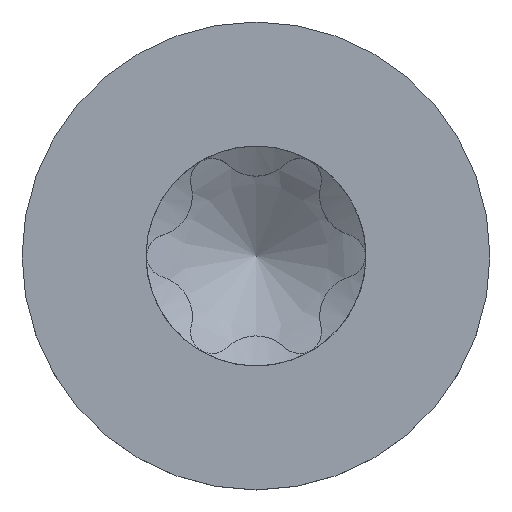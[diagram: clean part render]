
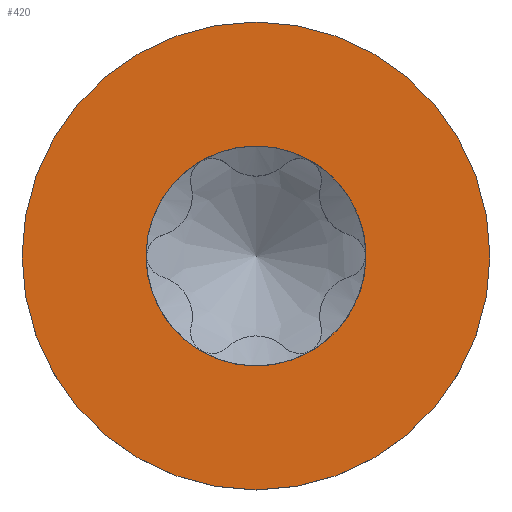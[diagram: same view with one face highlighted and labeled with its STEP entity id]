
A CAD part, top view. The second image highlights one B-rep face of the part: STEP entity #420.
In plain terms, the highlighted planar face has unit normal (0, 0, 1).
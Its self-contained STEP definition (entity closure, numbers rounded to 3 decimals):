
#377=PLANE('',#2076);
#384=FACE_BOUND('',#686,.T.);
#385=FACE_BOUND('',#687,.T.);
#420=ADVANCED_FACE('',(#384,#385),#377,.F.);
#686=EDGE_LOOP('',(#1058));
#687=EDGE_LOOP('',(#1059));
#1058=ORIENTED_EDGE('',*,*,#1818,.F.);
#1059=ORIENTED_EDGE('',*,*,#1819,.F.);
#1641=VERTEX_POINT('',#4886);
#1642=VERTEX_POINT('',#4888);
#1818=EDGE_CURVE('',#1641,#1641,#2056,.T.);
#1819=EDGE_CURVE('',#1642,#1642,#2057,.T.);
#2056=CIRCLE('',#2074,1.41);
#2057=CIRCLE('',#2075,3.);
#2074=AXIS2_PLACEMENT_3D('',#4885,#2124,#2125);
#2075=AXIS2_PLACEMENT_3D('',#4887,#2126,#2127);
#2076=AXIS2_PLACEMENT_3D('',#4889,#2128,#2129);
#2124=DIRECTION('',(0.,0.,1.));
#2125=DIRECTION('',(-1.,0.,0.));
#2126=DIRECTION('',(0.,0.,-1.));
#2127=DIRECTION('',(-1.,0.,0.));
#2128=DIRECTION('',(0.,0.,-1.));
#2129=DIRECTION('',(-1.,0.,0.));
#4885=CARTESIAN_POINT('',(0.,0.,2.375));
#4886=CARTESIAN_POINT('',(-1.41,0.,2.375));
#4887=CARTESIAN_POINT('',(0.,0.,2.375));
#4888=CARTESIAN_POINT('',(-3.,0.,2.375));
#4889=CARTESIAN_POINT('',(0.,0.,2.375));
